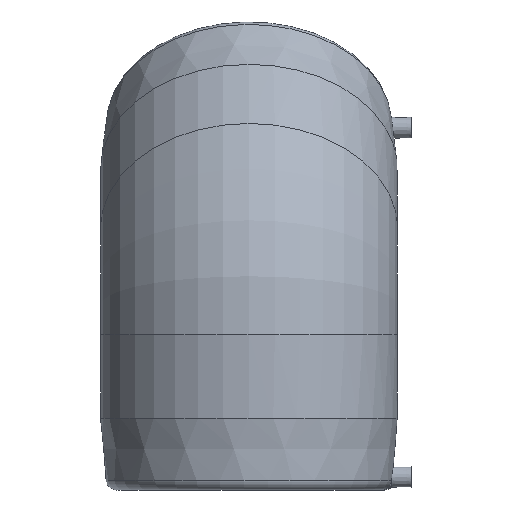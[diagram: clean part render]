
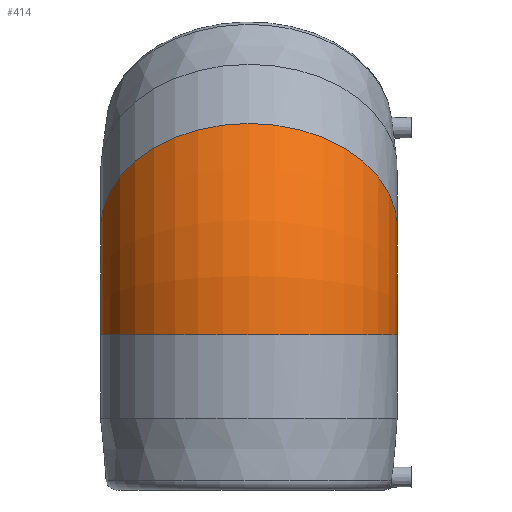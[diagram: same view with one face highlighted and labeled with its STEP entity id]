
A CAD part, left-side view. The second image highlights one B-rep face of the part: STEP entity #414.
In plain terms, the highlighted toroidal (fillet/blend) face has major radius 140.024 mm and minor radius 138.5 mm.
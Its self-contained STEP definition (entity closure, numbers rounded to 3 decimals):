
#23=TOROIDAL_SURFACE('',#483,140.024,138.5);
#110=ORIENTED_EDGE('',*,*,#178,.F.);
#111=ORIENTED_EDGE('',*,*,#177,.T.);
#177=EDGE_CURVE('',#220,#220,#248,.F.);
#178=EDGE_CURVE('',#221,#221,#249,.F.);
#220=VERTEX_POINT('',#813);
#221=VERTEX_POINT('',#816);
#248=CIRCLE('',#482,138.5);
#249=CIRCLE('',#484,138.5);
#299=EDGE_LOOP('',(#110));
#300=EDGE_LOOP('',(#111));
#360=FACE_BOUND('',#299,.T.);
#361=FACE_BOUND('',#300,.T.);
#414=ADVANCED_FACE('',(#360,#361),#23,.T.);
#482=AXIS2_PLACEMENT_3D('',#812,#590,#591);
#483=AXIS2_PLACEMENT_3D('',#814,#592,#593);
#484=AXIS2_PLACEMENT_3D('',#815,#594,#595);
#590=DIRECTION('',(0.,0.,-1.));
#591=DIRECTION('',(1.,0.,0.));
#592=DIRECTION('',(0.,1.,0.));
#593=DIRECTION('',(0.,0.,1.));
#594=DIRECTION('',(-0.707,0.,-0.707));
#595=DIRECTION('',(0.707,0.,-0.707));
#812=CARTESIAN_POINT('',(0.,0.,-58.));
#813=CARTESIAN_POINT('',(138.5,0.,-58.));
#814=CARTESIAN_POINT('',(140.024,0.,-58.));
#815=CARTESIAN_POINT('',(41.012,0.,41.012));
#816=CARTESIAN_POINT('',(138.946,0.,-56.922));
